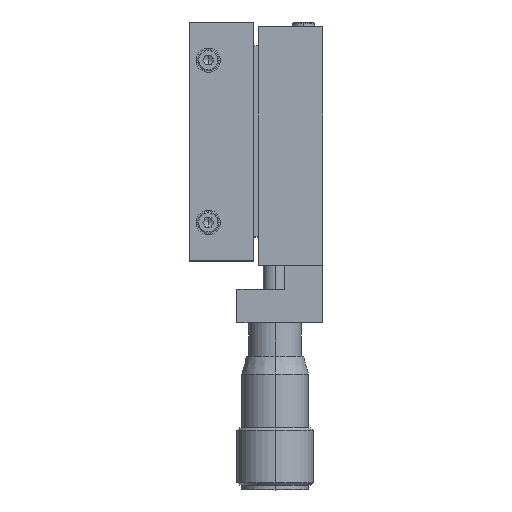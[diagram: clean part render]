
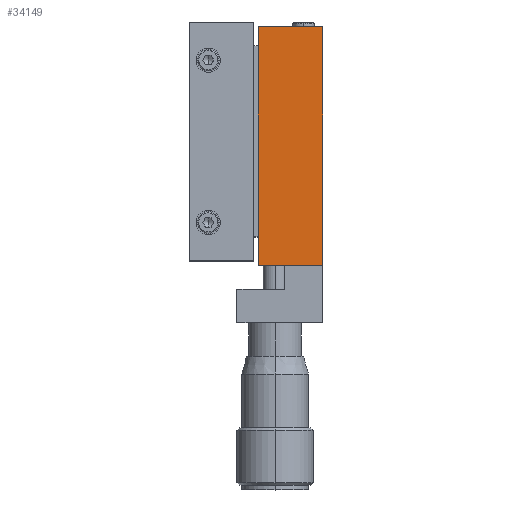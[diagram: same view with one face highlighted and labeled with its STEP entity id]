
A CAD part, top view. The second image highlights one B-rep face of the part: STEP entity #34149.
In plain terms, the highlighted planar face has unit normal (0, 0, 1).
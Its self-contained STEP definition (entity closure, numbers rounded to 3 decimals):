
#16164 = CARTESIAN_POINT ( 'NONE',  ( 47.657, -84.849, -37.875 ) ) ;
#16165 = DIRECTION ( 'NONE',  ( 0., 1., 0. ) ) ;
#16166 = VECTOR ( 'NONE', #16165, 1000. ) ;
#16167 = CARTESIAN_POINT ( 'NONE',  ( 47.657, -36.849, -37.875 ) ) ;
#16168 = LINE ( 'NONE', #16167, #16166 ) ;
#16169 = CARTESIAN_POINT ( 'NONE',  ( 47.657, -34.849, -37.875 ) ) ;
#17552 = DIRECTION ( 'NONE',  ( 0., 1., 0. ) ) ;
#17553 = VECTOR ( 'NONE', #17552, 1000. ) ;
#17554 = CARTESIAN_POINT ( 'NONE',  ( 34.157, -58.849, -37.875 ) ) ;
#17555 = LINE ( 'NONE', #17554, #17553 ) ;
#17556 = CARTESIAN_POINT ( 'NONE',  ( 34.157, -34.849, -37.875 ) ) ;
#17584 = DIRECTION ( 'NONE',  ( 1., 0., 0. ) ) ;
#17585 = VECTOR ( 'NONE', #17584, 1000. ) ;
#17586 = CARTESIAN_POINT ( 'NONE',  ( 40.907, -34.849, -37.875 ) ) ;
#17587 = LINE ( 'NONE', #17586, #17585 ) ;
#17588 = DIRECTION ( 'NONE',  ( 0., -1., 0. ) ) ;
#17589 = DIRECTION ( 'NONE',  ( 0., 0., 1. ) ) ;
#17590 = CARTESIAN_POINT ( 'NONE',  ( 40.157, -36.849, -37.875 ) ) ;
#17591 = AXIS2_PLACEMENT_3D ( 'NONE', #17590, #17589, #17588 ) ;
#17592 = PLANE ( 'NONE',  #17591 ) ;
#17593 = FACE_OUTER_BOUND ( 'NONE', #34150, .T. ) ;
#17598 = CARTESIAN_POINT ( 'NONE',  ( 34.157, -84.849, -37.875 ) ) ;
#17599 = DIRECTION ( 'NONE',  ( 1., 0., 0. ) ) ;
#17600 = VECTOR ( 'NONE', #17599, 1000. ) ;
#17601 = CARTESIAN_POINT ( 'NONE',  ( 40.157, -84.849, -37.875 ) ) ;
#17602 = LINE ( 'NONE', #17601, #17600 ) ;
#32568 = VERTEX_POINT ( 'NONE', #16169 ) ;
#32572 = EDGE_CURVE ( 'NONE', #32575, #32568, #16168, .T. ) ;
#32575 = VERTEX_POINT ( 'NONE', #16164 ) ;
#34111 = VERTEX_POINT ( 'NONE', #17556 ) ;
#34112 = ORIENTED_EDGE ( 'NONE', *, *, #34113, .F. ) ;
#34113 = EDGE_CURVE ( 'NONE', #34142, #34111, #17555, .T. ) ;
#34116 = ORIENTED_EDGE ( 'NONE', *, *, #34140, .T. ) ;
#34140 = EDGE_CURVE ( 'NONE', #34142, #32575, #17602, .T. ) ;
#34142 = VERTEX_POINT ( 'NONE', #17598 ) ;
#34149 = ADVANCED_FACE ( 'NONE', ( #17593 ), #17592, .T. ) ;
#34150 = EDGE_LOOP ( 'NONE', ( #34151, #34152, #34112, #34116 ) ) ;
#34151 = ORIENTED_EDGE ( 'NONE', *, *, #32572, .T. ) ;
#34152 = ORIENTED_EDGE ( 'NONE', *, *, #34153, .F. ) ;
#34153 = EDGE_CURVE ( 'NONE', #34111, #32568, #17587, .T. ) ;
